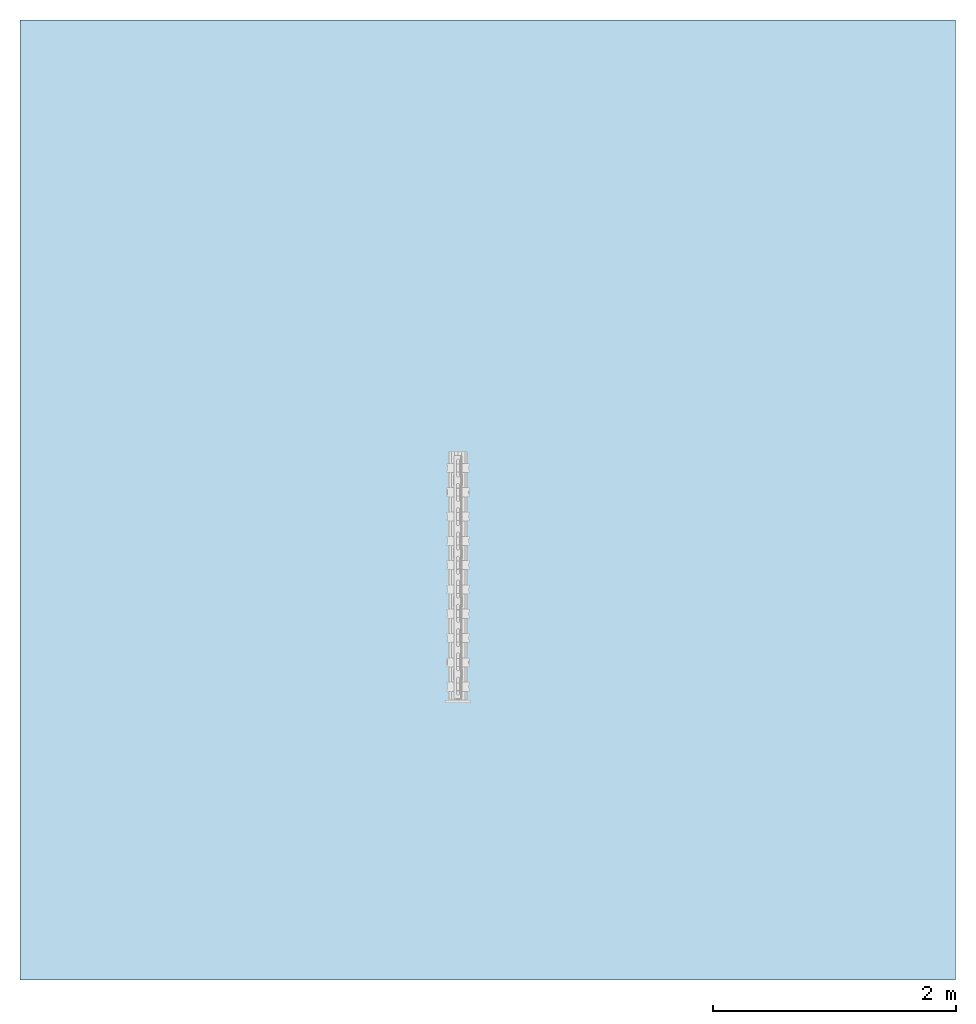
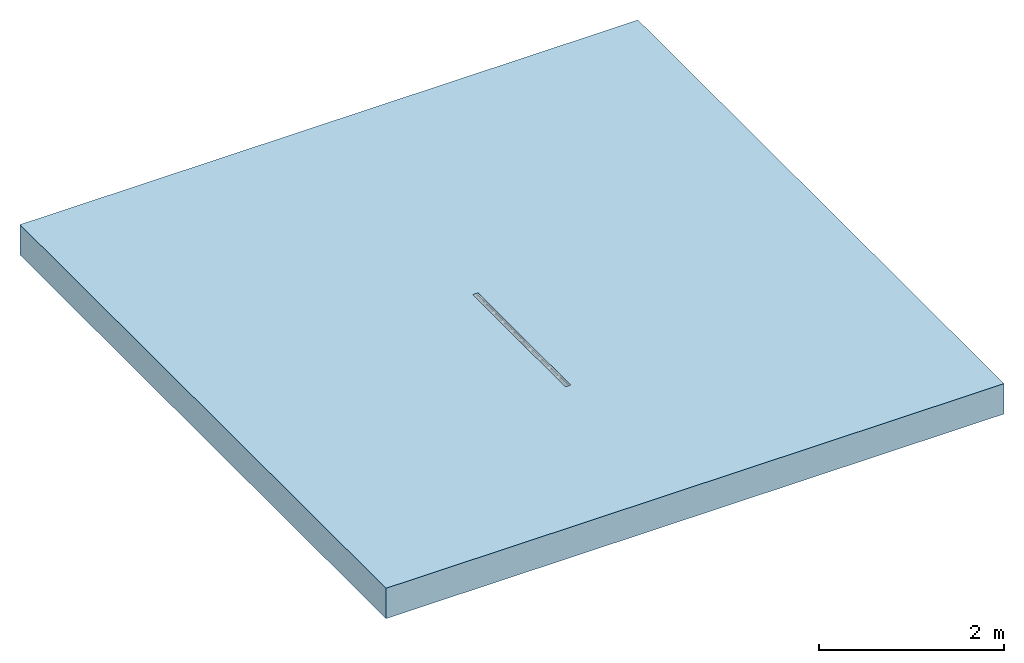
# One storey, incomplete: 1 slab, 1 opening.
"""IFC2X3 building model written with IfcOpenShell, lengths in millimetres."""

from ifc_helpers import new_model, entity, si_unit, converted_unit, direction, frame, frame_2d, origin, place, context, subcontext, project, spatial, polyline, rectangle, outline, extrude, material, layer, layer_set, layer_usage, element, save


model = new_model("IFC2X3")

# Units and contexts
model_context = context("Model", 3, precision=1e-06, world=origin(), true_north=direction((2.0, 6.12303176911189e-17, 1.0)))
context_of_model = context(None, 3, precision=1e-06, world=origin(), true_north=direction((2.0, 6.12303176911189e-17, 1.0)))
body_context = subcontext(model_context, "Body", "Model", "MODEL_VIEW")
ifc_project = project(units=[si_unit("LENGTHUNIT", "METRE", prefix="MILLI"), si_unit("AREAUNIT", "SQUARE_METRE", prefix="MILLI"), si_unit("VOLUMEUNIT", "CUBIC_METRE", prefix="MILLI"), converted_unit("PLANEANGLEUNIT", "DEGREE", entity("IfcRatioMeasure", 0.0174532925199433), si_unit("PLANEANGLEUNIT", "RADIAN"), dimensions=[0, 0, 0, 0, 0, 0, 0]), si_unit("TIMEUNIT", "SECOND")], contexts=[model_context, context_of_model])

# Site, building, storey
site_placement = place(None, origin())
site = spatial("IfcSite", under=ifc_project, at=site_placement, Name="Default", CompositionType="ELEMENT")
building_placement = place(site_placement, origin())
building = spatial("IfcBuilding", under=site, at=building_placement, CompositionType="ELEMENT")
storey_placement = place(building_placement, origin())
storey = spatial("IfcBuildingStorey", under=building, at=storey_placement, Name="Level 1", CompositionType="ELEMENT", Elevation=0.0)

# Slab, opening
ifc_material = material(Name="Plant")
ifc_layer = layer(ifc_material, 400.0)
ifc_layer_set = layer_set([ifc_layer], Name="Floor:Generic Floor - 400mm")
ifc_layer_usage = layer_usage(ifc_layer_set, "AXIS3", "POSITIVE", 0.0)
slab_placement = place(storey_placement, frame((-12747.8626183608, -2890.92363446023, -400.0)))
slab = element("IfcSlab", 1, at=slab_placement, inside=storey, material=ifc_layer_usage, Name="Floor:Generic Floor - 400mm", ObjectType="Floor:Generic Floor - 400mm", PredefinedType="FLOOR", context=body_context, shape_type="SweptSolid", body=[
    extrude(rectangle(XDim=7900.0, YDim=7700.0, at=frame_2d((0.0, 0.0), x_axis=(0.0, -1.0))), frame((3850.0, 3950.0, 400.0), z_axis=(0.0, 0.0, -1.0), x_axis=(-1.0, 0.0, 0.0)), (0.0, 0.0, 1.0), 400.0),
])
opening_placement = place(slab_placement, origin())
element("IfcOpeningElement", 2, at=opening_placement, cuts=slab, ObjectType="Opening", context=body_context, shape_type="SweptSolid", body=[
    extrude(outline(polyline([(-115.0, 32.5000000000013), (-115.0, -32.4999999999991), (-85.0, -32.4999999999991), (-85.0, -108.0), (285.0, -108.0), (285.0, 108.0), (-85.0, 108.0), (-85.0, 32.5000000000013), (-115.0, 32.5000000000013)])), frame((3604.85823138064, 2315.31219286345, 285.0), z_axis=(0.0, -1.0, 0.0), x_axis=(0.0, 0.0, -1.0)), (0.0, 0.0, -1.0), 2000.0),
])

save(model, "model.ifc")
